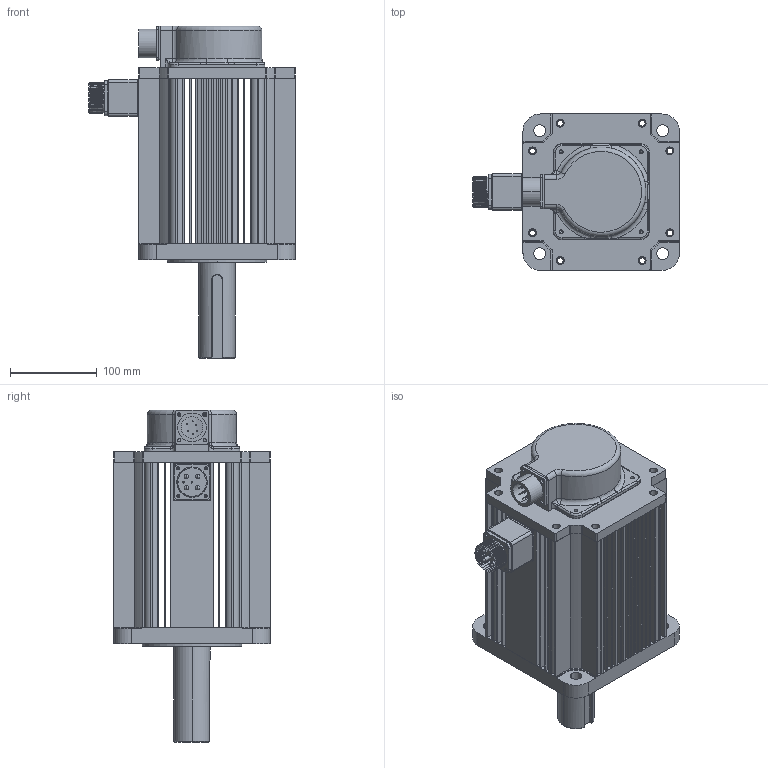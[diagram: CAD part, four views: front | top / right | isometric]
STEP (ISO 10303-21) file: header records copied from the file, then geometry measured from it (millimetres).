
FILE_DESCRIPTION (( 'STEP AP203' ), '1' );
FILE_NAME ('MS6H-180CN15B2-45P5.STEP', '2023-12-26T02:34:24', ( '' ), ( '' ), 'SwSTEP 2.0', 'SolidWorks 2022', '' );
FILE_SCHEMA (( 'CONFIG_CONTROL_DESIGN' ));
Length unit declared in the file: millimetre
Products named in the file (1): MS6H-180CN15B2-45P5
Bounding box: 237.9 x 180 x 382 mm (x, y, z)
Surface area: 424546.6 mm2 (no closed solid volume)
Topology: 0 solids, 19 shells, 750 faces, 2311 edges, 1551 vertices
Faces by surface type: cylinder 312, plane 309, torus 73, bspline 29, sphere 14, cone 13
Entity records: 32856 total; most frequent: CARTESIAN_POINT 12104, DIRECTION 4464, ORIENTED_EDGE 4136, EDGE_CURVE 2283, AXIS2_PLACEMENT_3D 1657, VERTEX_POINT 1539, VECTOR 1150, LINE 1150
